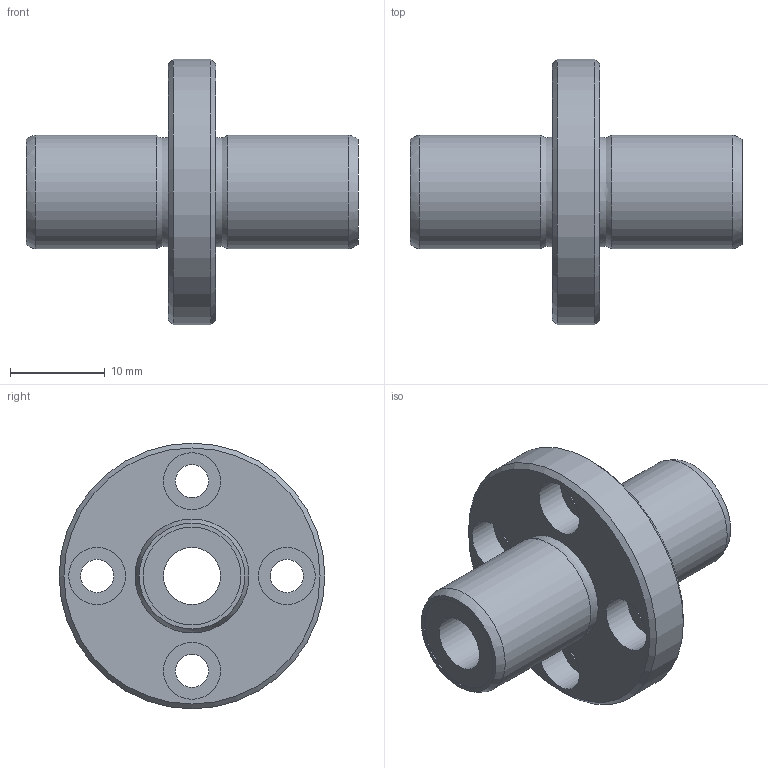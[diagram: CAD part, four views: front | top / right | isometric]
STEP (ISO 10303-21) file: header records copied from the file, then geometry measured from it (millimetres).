
FILE_DESCRIPTION((''),'2;1');
FILE_NAME('D:\製品 (図面)\カタログ用3D\リニアベアリング関連\STEP形式\LFDC\LFDC6.stp','2010-06-03T09:26:16',('Tsuchiya'),(''),'Autodesk Inventor 10','Autodesk Inventor 10','');
FILE_SCHEMA(('AUTOMOTIVE_DESIGN { 1 0 10303 214 1 1 1 1 }'));
Length unit declared in the file: millimetre
Products named in the file (1): LFDC6
Bounding box: 35 x 28 x 28 mm (x, y, z)
Volume: 4982.7 mm3; surface area: 3589.6 mm2
Topology: 1 solids, 1 shells, 30 faces, 54 edges, 34 vertices
Faces by surface type: cylinder 14, plane 10, bspline 4, cone 2
Full cylindrical faces by diameter (mm): 3.5 x4, 6 x5, 10.3 x2, 12 x2, 28 x1
Entity records: 847 total; most frequent: CARTESIAN_POINT 275, DIRECTION 122, ORIENTED_EDGE 68, EDGE_LOOP 68, AXIS2_PLACEMENT_3D 61, FACE_BOUND 38, VERTEX_POINT 34, CIRCLE 34
